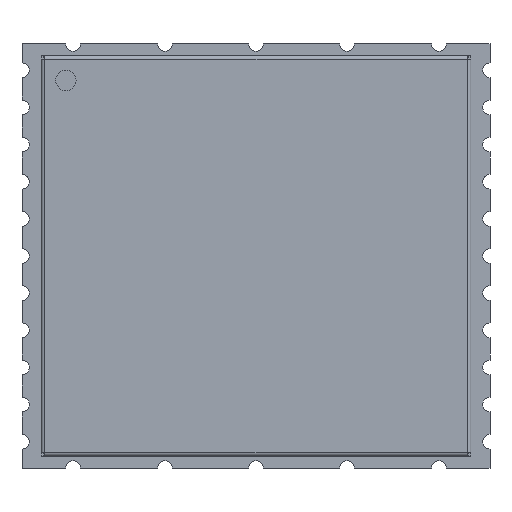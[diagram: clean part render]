
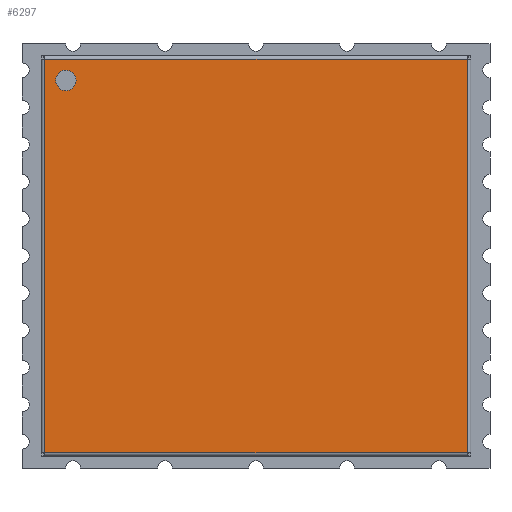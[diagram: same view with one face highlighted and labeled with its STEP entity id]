
A CAD part, top view. The second image highlights one B-rep face of the part: STEP entity #6297.
In plain terms, the highlighted planar face has unit normal (0, 0, 1).
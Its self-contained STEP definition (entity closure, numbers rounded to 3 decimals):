
#6297 = ADVANCED_FACE('',(#6298),#6312,.F.);
#6298 = FACE_BOUND('',#6299,.T.);
#6299 = EDGE_LOOP('',(#6300,#6335,#6363,#6391));
#6300 = ORIENTED_EDGE('',*,*,#6301,.T.);
#6301 = EDGE_CURVE('',#6302,#6304,#6306,.T.);
#6302 = VERTEX_POINT('',#6303);
#6303 = CARTESIAN_POINT('',(-14.45,-13.45,3.8));
#6304 = VERTEX_POINT('',#6305);
#6305 = CARTESIAN_POINT('',(14.45,-13.45,3.8));
#6306 = SURFACE_CURVE('',#6307,(#6311,#6323),.PCURVE_S1.);
#6307 = LINE('',#6308,#6309);
#6308 = CARTESIAN_POINT('',(-14.7,-13.45,3.8));
#6309 = VECTOR('',#6310,1.);
#6310 = DIRECTION('',(1.,0.,0.));
#6311 = PCURVE('',#6312,#6317);
#6312 = PLANE('',#6313);
#6313 = AXIS2_PLACEMENT_3D('',#6314,#6315,#6316);
#6314 = CARTESIAN_POINT('',(-14.7,16.45,3.8));
#6315 = DIRECTION('',(0.,0.,-1.));
#6316 = DIRECTION('',(-1.,0.,0.));
#6317 = DEFINITIONAL_REPRESENTATION('',(#6318),#6322);
#6318 = LINE('',#6319,#6320);
#6319 = CARTESIAN_POINT('',(0.,-29.9));
#6320 = VECTOR('',#6321,1.);
#6321 = DIRECTION('',(-1.,0.));
#6322 = ( GEOMETRIC_REPRESENTATION_CONTEXT(2) 
PARAMETRIC_REPRESENTATION_CONTEXT() REPRESENTATION_CONTEXT('2D SPACE',''
  ) );
#6323 = PCURVE('',#6324,#6329);
#6324 = CYLINDRICAL_SURFACE('',#6325,0.25);
#6325 = AXIS2_PLACEMENT_3D('',#6326,#6327,#6328);
#6326 = CARTESIAN_POINT('',(15.45,-13.45,3.55));
#6327 = DIRECTION('',(1.,0.,0.));
#6328 = DIRECTION('',(0.,0.,-1.));
#6329 = DEFINITIONAL_REPRESENTATION('',(#6330),#6334);
#6330 = LINE('',#6331,#6332);
#6331 = CARTESIAN_POINT('',(3.142,-30.15));
#6332 = VECTOR('',#6333,1.);
#6333 = DIRECTION('',(0.,1.));
#6334 = ( GEOMETRIC_REPRESENTATION_CONTEXT(2) 
PARAMETRIC_REPRESENTATION_CONTEXT() REPRESENTATION_CONTEXT('2D SPACE',''
  ) );
#6335 = ORIENTED_EDGE('',*,*,#6336,.F.);
#6336 = EDGE_CURVE('',#6337,#6304,#6339,.T.);
#6337 = VERTEX_POINT('',#6338);
#6338 = CARTESIAN_POINT('',(14.45,13.45,3.8));
#6339 = SURFACE_CURVE('',#6340,(#6344,#6351),.PCURVE_S1.);
#6340 = LINE('',#6341,#6342);
#6341 = CARTESIAN_POINT('',(14.45,16.45,3.8));
#6342 = VECTOR('',#6343,1.);
#6343 = DIRECTION('',(0.,-1.,0.));
#6344 = PCURVE('',#6312,#6345);
#6345 = DEFINITIONAL_REPRESENTATION('',(#6346),#6350);
#6346 = LINE('',#6347,#6348);
#6347 = CARTESIAN_POINT('',(-29.15,0.));
#6348 = VECTOR('',#6349,1.);
#6349 = DIRECTION('',(0.,-1.));
#6350 = ( GEOMETRIC_REPRESENTATION_CONTEXT(2) 
PARAMETRIC_REPRESENTATION_CONTEXT() REPRESENTATION_CONTEXT('2D SPACE',''
  ) );
#6351 = PCURVE('',#6352,#6357);
#6352 = CYLINDRICAL_SURFACE('',#6353,0.25);
#6353 = AXIS2_PLACEMENT_3D('',#6354,#6355,#6356);
#6354 = CARTESIAN_POINT('',(14.45,16.45,3.55));
#6355 = DIRECTION('',(0.,1.,0.));
#6356 = DIRECTION('',(0.,0.,-1.));
#6357 = DEFINITIONAL_REPRESENTATION('',(#6358),#6362);
#6358 = LINE('',#6359,#6360);
#6359 = CARTESIAN_POINT('',(3.142,0.));
#6360 = VECTOR('',#6361,1.);
#6361 = DIRECTION('',(0.,-1.));
#6362 = ( GEOMETRIC_REPRESENTATION_CONTEXT(2) 
PARAMETRIC_REPRESENTATION_CONTEXT() REPRESENTATION_CONTEXT('2D SPACE',''
  ) );
#6363 = ORIENTED_EDGE('',*,*,#6364,.F.);
#6364 = EDGE_CURVE('',#6365,#6337,#6367,.T.);
#6365 = VERTEX_POINT('',#6366);
#6366 = CARTESIAN_POINT('',(-14.45,13.45,3.8));
#6367 = SURFACE_CURVE('',#6368,(#6372,#6379),.PCURVE_S1.);
#6368 = LINE('',#6369,#6370);
#6369 = CARTESIAN_POINT('',(-14.7,13.45,3.8));
#6370 = VECTOR('',#6371,1.);
#6371 = DIRECTION('',(1.,0.,0.));
#6372 = PCURVE('',#6312,#6373);
#6373 = DEFINITIONAL_REPRESENTATION('',(#6374),#6378);
#6374 = LINE('',#6375,#6376);
#6375 = CARTESIAN_POINT('',(0.,-3.));
#6376 = VECTOR('',#6377,1.);
#6377 = DIRECTION('',(-1.,0.));
#6378 = ( GEOMETRIC_REPRESENTATION_CONTEXT(2) 
PARAMETRIC_REPRESENTATION_CONTEXT() REPRESENTATION_CONTEXT('2D SPACE',''
  ) );
#6379 = PCURVE('',#6380,#6385);
#6380 = CYLINDRICAL_SURFACE('',#6381,0.25);
#6381 = AXIS2_PLACEMENT_3D('',#6382,#6383,#6384);
#6382 = CARTESIAN_POINT('',(-14.45,13.45,3.55));
#6383 = DIRECTION('',(-1.,0.,0.));
#6384 = DIRECTION('',(0.,0.,-1.));
#6385 = DEFINITIONAL_REPRESENTATION('',(#6386),#6390);
#6386 = LINE('',#6387,#6388);
#6387 = CARTESIAN_POINT('',(3.142,0.25));
#6388 = VECTOR('',#6389,1.);
#6389 = DIRECTION('',(0.,-1.));
#6390 = ( GEOMETRIC_REPRESENTATION_CONTEXT(2) 
PARAMETRIC_REPRESENTATION_CONTEXT() REPRESENTATION_CONTEXT('2D SPACE',''
  ) );
#6391 = ORIENTED_EDGE('',*,*,#6392,.T.);
#6392 = EDGE_CURVE('',#6365,#6302,#6393,.T.);
#6393 = SURFACE_CURVE('',#6394,(#6398,#6405),.PCURVE_S1.);
#6394 = LINE('',#6395,#6396);
#6395 = CARTESIAN_POINT('',(-14.45,16.45,3.8));
#6396 = VECTOR('',#6397,1.);
#6397 = DIRECTION('',(0.,-1.,0.));
#6398 = PCURVE('',#6312,#6399);
#6399 = DEFINITIONAL_REPRESENTATION('',(#6400),#6404);
#6400 = LINE('',#6401,#6402);
#6401 = CARTESIAN_POINT('',(-0.25,0.));
#6402 = VECTOR('',#6403,1.);
#6403 = DIRECTION('',(0.,-1.));
#6404 = ( GEOMETRIC_REPRESENTATION_CONTEXT(2) 
PARAMETRIC_REPRESENTATION_CONTEXT() REPRESENTATION_CONTEXT('2D SPACE',''
  ) );
#6405 = PCURVE('',#6406,#6411);
#6406 = CYLINDRICAL_SURFACE('',#6407,0.25);
#6407 = AXIS2_PLACEMENT_3D('',#6408,#6409,#6410);
#6408 = CARTESIAN_POINT('',(-14.45,16.45,3.55));
#6409 = DIRECTION('',(0.,1.,0.));
#6410 = DIRECTION('',(0.,0.,-1.));
#6411 = DEFINITIONAL_REPRESENTATION('',(#6412),#6416);
#6412 = LINE('',#6413,#6414);
#6413 = CARTESIAN_POINT('',(3.142,0.));
#6414 = VECTOR('',#6415,1.);
#6415 = DIRECTION('',(0.,-1.));
#6416 = ( GEOMETRIC_REPRESENTATION_CONTEXT(2) 
PARAMETRIC_REPRESENTATION_CONTEXT() REPRESENTATION_CONTEXT('2D SPACE',''
  ) );
